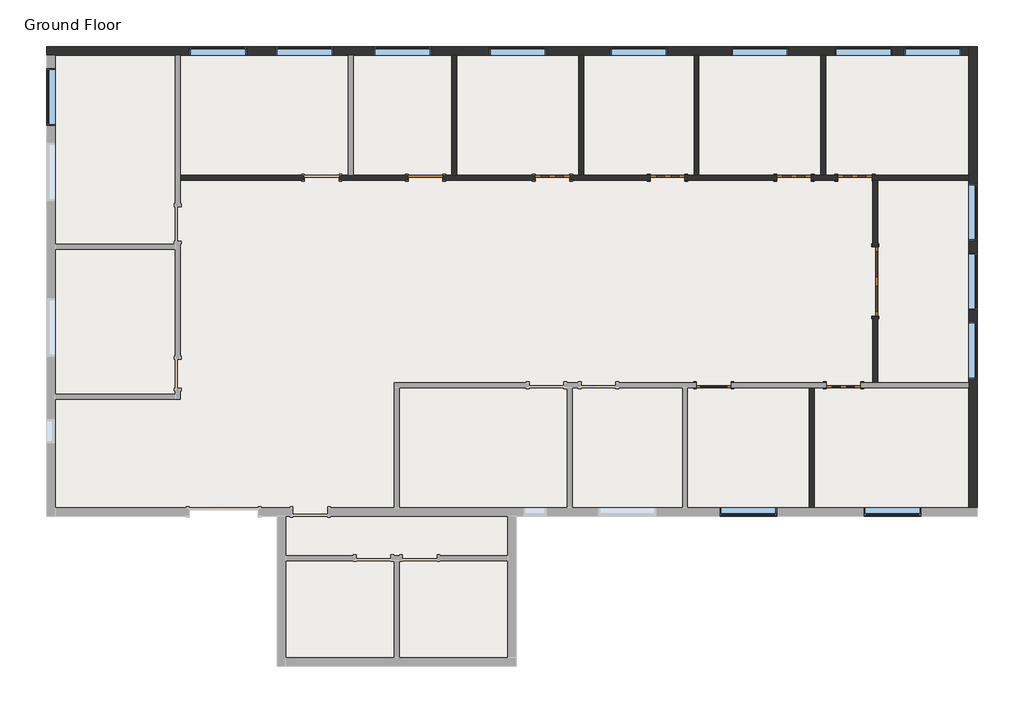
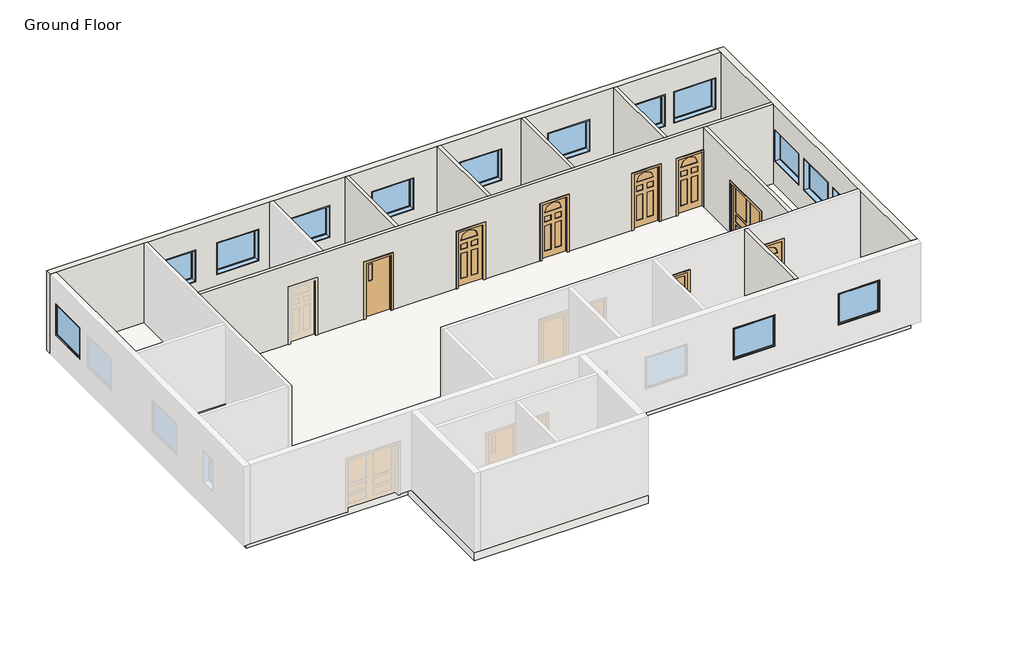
# One storey, part 2 of 2: 14 windows, 9 walls, 8 doors, 1 slab.
"""IFC4 building model written with IfcOpenShell, lengths in millimetres."""

import ifcopenshell
import ifcopenshell.guid

model = None  # the IFC model being written
_history = None  # IfcOwnerHistory: only IFC2X3 demands one
_inside = {}  # id of a spatial element -> (the spatial element, [elements in it])
_under = {}  # id of a project, library or spatial element -> (it, [spatial elements below it])
_declared = {}  # id of a project -> (the project, [libraries it declares])
_typed = {}  # id of a type object -> (the type object, [elements of that type])
_made_of = {}  # id of a material, layer set ... -> (it, [elements and type objects made of it])


def new_model(schema):
    """Start an empty IFC model of exactly this schema.

    Asked for "IFC4X3", IfcOpenShell would pick the latest addendum, in which some entities
    have other attributes; the version numbers below select the first issue.
    IFC2X3 requires an IfcOwnerHistory on every rooted entity: one is made here for all.
    """
    global model, _history
    if schema == "IFC4X3":
        model = ifcopenshell.file(schema_version=(4, 3, 0, 0))
    else:
        model = ifcopenshell.file(schema=schema)
    _inside.clear()
    _under.clear()
    _declared.clear()
    _typed.clear()
    _made_of.clear()
    _history = None
    if model.schema == "IFC2X3":
        org = make("IfcOrganization", Name="unknown")
        user = make(
            "IfcPersonAndOrganization",
            ThePerson=make("IfcPerson", FamilyName="unknown"),
            TheOrganization=org,
        )
        app = make(
            "IfcApplication",
            ApplicationDeveloper=org,
            Version="unknown",
            ApplicationFullName="unknown",
            ApplicationIdentifier="unknown",
        )
        _history = make(
            "IfcOwnerHistory",
            OwningUser=user,
            OwningApplication=app,
            ChangeAction="ADDED",
            CreationDate=0,
        )
    return model


def make(cls, **values):
    """One entity of the class cls with the attributes given. An attribute that is None is left unset."""
    return model.create_entity(
        cls, **{name: value for name, value in values.items() if value is not None}
    )


def rooted(cls, **values):
    """An entity with a GlobalId (a new one), such as an element, a storey or a relation."""
    return make(cls, GlobalId=ifcopenshell.guid.new(), OwnerHistory=_history, **values)


def si_unit(unit_type, name, prefix=None):
    """IfcSIUnit, for example si_unit("LENGTHUNIT", "METRE", prefix="MILLI")."""
    return make("IfcSIUnit", UnitType=unit_type, Prefix=prefix, Name=name)


def assignment(units):
    """IfcUnitAssignment: the units of a project."""
    return None if units is None else make("IfcUnitAssignment", Units=units)


def point(xyz):
    """IfcCartesianPoint."""
    return None if xyz is None else make("IfcCartesianPoint", Coordinates=xyz)


def direction(xyz):
    """IfcDirection."""
    return None if xyz is None else make("IfcDirection", DirectionRatios=xyz)


def frame(location, z_axis=None, x_axis=None):
    """IfcAxis2Placement3D, a coordinate frame: its origin and axes. An axis left out is left unset."""
    return make(
        "IfcAxis2Placement3D",
        Location=point(location),
        Axis=direction(z_axis),
        RefDirection=direction(x_axis),
    )


def frame_2d(location, x_axis=None):
    """IfcAxis2Placement2D, a coordinate frame in the plane: its origin and x axis."""
    return make(
        "IfcAxis2Placement2D", Location=point(location), RefDirection=direction(x_axis)
    )


def origin():
    """The frame at (0, 0, 0) with its axes left unset."""
    return frame((0.0, 0.0, 0.0))


def origin_with_axes():
    """The frame at (0, 0, 0) with the z axis (0, 0, 1) and the x axis (1, 0, 0) written out."""
    return frame((0.0, 0.0, 0.0), z_axis=(0.0, 0.0, 1.0), x_axis=(1.0, 0.0, 0.0))


def place(relative_to, where):
    """IfcLocalPlacement: puts the frame where relative to a parent placement (None: the world)."""
    return make(
        "IfcLocalPlacement", PlacementRelTo=relative_to, RelativePlacement=where
    )


def context(
    kind, dimensions, precision=None, world=None, true_north=None, identifier=None
):
    """IfcGeometricRepresentationContext, for example the 3D "Model" context."""
    return make(
        "IfcGeometricRepresentationContext",
        ContextIdentifier=identifier,
        ContextType=kind,
        CoordinateSpaceDimension=dimensions,
        Precision=precision,
        WorldCoordinateSystem=world,
        TrueNorth=true_north,
    )


def project(units=None, contexts=None):
    """IfcProject with its units and contexts."""
    return rooted(
        "IfcProject",
        Name="project",
        RepresentationContexts=contexts,
        UnitsInContext=assignment(units),
    )


def spatial(cls, under=None, at=None, **own):
    """A site, building, storey or space (cls), placed at a placement, below another one or the project."""
    s = rooted(cls, ObjectPlacement=at, **own)
    if under is not None:
        _under.setdefault(under.id(), (under, []))[1].append(s)
    return s


def polyline(points):
    """IfcPolyline through the points."""
    return make("IfcPolyline", Points=[point(p) for p in points])


def circle_curve(where, radius):
    """IfcCircle in the frame where."""
    return make("IfcCircle", Position=where, Radius=radius)


def trimmed(basis, trim1, trim2, sense, master):
    """IfcTrimmedCurve: the piece of a basis curve between two trims."""
    return make(
        "IfcTrimmedCurve",
        BasisCurve=basis,
        Trim1=trim1,
        Trim2=trim2,
        SenseAgreement=sense,
        MasterRepresentation=master,
    )


def segment(curve, same_sense, transition):
    """IfcCompositeCurveSegment."""
    return make(
        "IfcCompositeCurveSegment",
        Transition=transition,
        SameSense=same_sense,
        ParentCurve=curve,
    )


def composite_curve(segments, self_intersect=None):
    """IfcCompositeCurve: segments joined end to end."""
    return make("IfcCompositeCurve", Segments=segments, SelfIntersect=self_intersect)


def outline(outer, holes=None, kind="AREA"):
    """IfcArbitraryClosedProfileDef: a profile drawn as a closed curve; with holes, ...WithVoids."""
    if holes is None:
        return make("IfcArbitraryClosedProfileDef", ProfileType=kind, OuterCurve=outer)
    return make(
        "IfcArbitraryProfileDefWithVoids",
        ProfileType=kind,
        OuterCurve=outer,
        InnerCurves=holes,
    )


def extrude(swept, where, along, depth):
    """IfcExtrudedAreaSolid: the profile swept, set in the frame where, extruded along a direction by depth."""
    return make(
        "IfcExtrudedAreaSolid",
        SweptArea=swept,
        Position=where,
        ExtrudedDirection=direction(along),
        Depth=depth,
    )


def faces_of(points, faces, orient=None, outer=None):
    """IfcFace entities. A face is a list of loops; a loop is a list of indices into points, from 0.

    orient and outer hold one flag for each loop. By default every Orientation is true, the
    first loop of a face is its IfcFaceOuterBound and the others are IfcFaceBound.
    """
    made = []
    for i, loops in enumerate(faces):
        bounds = []
        for j, loop in enumerate(loops):
            is_outer = j == 0 if outer is None else outer[i][j]
            bounds.append(
                make(
                    "IfcFaceOuterBound" if is_outer else "IfcFaceBound",
                    Bound=make("IfcPolyLoop", Polygon=[points[k] for k in loop]),
                    Orientation=True if orient is None else orient[i][j],
                )
            )
        made.append(make("IfcFace", Bounds=bounds))
    return made


def faceted_brep(points, faces, orient=None, outer=None, voids=None):
    """IfcFacetedBrep: a solid bounded by flat faces; with voids (closed shells), ...WithVoids."""
    shared = [point(p) for p in points]
    hull = make("IfcClosedShell", CfsFaces=faces_of(shared, faces, orient, outer))
    if voids is None:
        return make("IfcFacetedBrep", Outer=hull)
    return make(
        "IfcFacetedBrepWithVoids",
        Outer=hull,
        Voids=[
            make(cls, CfsFaces=faces_of(shared, fs, o, b)) for cls, fs, o, b in voids
        ],
    )


def shape(context_of_items, identifier, shape_type, items):
    """IfcShapeRepresentation: the items that make up one representation, for example the "Body"."""
    return make(
        "IfcShapeRepresentation",
        ContextOfItems=context_of_items,
        RepresentationIdentifier=identifier,
        RepresentationType=shape_type,
        Items=items,
    )


def source(mapping_origin, context_of_items, identifier, shape_type, items):
    """IfcRepresentationMap: a shape defined once, which mapped items show again and again."""
    return make(
        "IfcRepresentationMap",
        MappingOrigin=mapping_origin,
        MappedRepresentation=shape(context_of_items, identifier, shape_type, items),
    )


def transform(
    local_origin,
    x_axis=None,
    y_axis=None,
    z_axis=None,
    scale=None,
    scale2=None,
    scale3=None,
    uniform=True,
):
    """IfcCartesianTransformationOperator3D, or its non-uniform kind. x_axis, y_axis, z_axis: its Axis1, 2, 3."""
    if uniform:
        return make(
            "IfcCartesianTransformationOperator3D",
            Axis1=direction(x_axis),
            Axis2=direction(y_axis),
            LocalOrigin=point(local_origin),
            Scale=scale,
            Axis3=direction(z_axis),
        )
    return make(
        "IfcCartesianTransformationOperator3DnonUniform",
        Axis1=direction(x_axis),
        Axis2=direction(y_axis),
        LocalOrigin=point(local_origin),
        Scale=scale,
        Axis3=direction(z_axis),
        Scale2=scale2,
        Scale3=scale3,
    )


def mapped(mapping_source, mapping_target):
    """IfcMappedItem: shows the shape of a source again, moved by a transform."""
    return make(
        "IfcMappedItem", MappingSource=mapping_source, MappingTarget=mapping_target
    )


def made_of(thing, what):
    """Note that an element or type object is made of a material, layer set ...; save() writes the relation."""
    if what is not None:
        _made_of.setdefault(what.id(), (what, []))[1].append(thing)
    return thing


def element(
    cls,
    number,
    at=None,
    inside=None,
    cuts=None,
    type_object=None,
    material=None,
    context=None,
    identifier="Body",
    shape_type=None,
    held_by="IfcProductDefinitionShape",
    body=None,
    shapes=None,
    **own,
):
    """One element of the class cls, such as IfcWall. Its Tag is "e" and its number.

    at: its placement. inside: the storey or other place that contains it. cuts: it is an
    opening in that element (IfcRelVoidsElement). A single representation is given by context,
    identifier, shape_type and body (its items); several are given by shapes. held_by: the class
    of the entity that holds the representations. save() writes the other relations.
    """
    e = rooted(cls, Tag="e%d" % number, ObjectPlacement=at, **own)
    if body is not None:
        shapes = [shape(context, identifier, shape_type, body)]
    if shapes is not None:
        e.Representation = make(held_by, Representations=shapes)
    if inside is not None:
        _inside.setdefault(inside.id(), (inside, []))[1].append(e)
    if cuts is not None:
        rooted(
            "IfcRelVoidsElement", RelatingBuildingElement=cuts, RelatedOpeningElement=e
        )
    if type_object is not None:
        _typed.setdefault(type_object.id(), (type_object, []))[1].append(e)
    return made_of(e, material)


def aggregate(whole, parts):
    """IfcRelAggregates: a whole, such as a stair, and the parts it consists of."""
    return rooted("IfcRelAggregates", RelatingObject=whole, RelatedObjects=parts)


def save(model, path):
    """Write the relations noted so far, then the file.

    IfcRelAggregates (storeys below a building ...), IfcRelContainedInSpatialStructure (elements
    in a storey), IfcRelDefinesByType, IfcRelAssociatesMaterial and IfcRelDeclares: one each for
    every whole, place, type object, material and project.
    """
    for whole, parts in _under.values():
        aggregate(whole, parts)
    for where, things in _inside.values():
        rooted(
            "IfcRelContainedInSpatialStructure",
            RelatedElements=things,
            RelatingStructure=where,
        )
    for kind, things in _typed.values():
        rooted("IfcRelDefinesByType", RelatedObjects=things, RelatingType=kind)
    for what, things in _made_of.values():
        rooted("IfcRelAssociatesMaterial", RelatedObjects=things, RelatingMaterial=what)
    for by, libraries in _declared.values():
        rooted("IfcRelDeclares", RelatingContext=by, RelatedDefinitions=libraries)
    model.write(path)


def door_c59f2623(model_context):
    return source(origin(), model_context, "Body", "SweptSolid", [
        extrude(outline(polyline([(2057.4, -990.6), (0.0, -990.6), (0.0, -914.4), (1981.2, -914.4), (1981.2, 914.4), (0.0, 914.4), (0.0, 990.6), (2057.4, 990.6), (2057.4, -990.6)])), frame((0.0, 63.5, 0.0), z_axis=(0.0, 1.0, 0.0), x_axis=(0.0, 0.0, 1.0)), (0.0, 0.0, 1.0), 25.4),
        extrude(outline(polyline([(127.0, 50.8), (787.4, 50.8), (787.4, 25.4), (127.0, 25.4), (127.0, 50.8)])), frame((0.0, 0.0, 914.4), z_axis=(0.0, 0.0, 1.0), x_axis=(1.0, 0.0, 0.0)), (0.0, 0.0, 1.0), 914.4),
        extrude(outline(polyline([(127.0, 50.8), (787.4, 50.8), (787.4, 25.4), (127.0, 25.4), (127.0, 50.8)])), frame((0.0, 0.0, 533.4), z_axis=(0.0, 0.0, 1.0), x_axis=(1.0, 0.0, 0.0)), (0.0, 0.0, 1.0), 279.4),
        extrude(outline(polyline([(127.0, 50.8), (787.4, 50.8), (787.4, 25.4), (127.0, 25.4), (127.0, 50.8)])), frame((0.0, 0.0, 152.4), z_axis=(0.0, 0.0, 1.0), x_axis=(1.0, 0.0, 0.0)), (0.0, 0.0, 1.0), 279.4),
        extrude(outline(polyline([(-787.4, 50.8), (-127.0, 50.8), (-127.0, 25.4), (-787.4, 25.4), (-787.4, 50.8)])), frame((0.0, 0.0, 914.4), z_axis=(0.0, 0.0, 1.0), x_axis=(1.0, 0.0, 0.0)), (0.0, 0.0, 1.0), 914.4),
        extrude(outline(polyline([(-787.4, 50.8), (-127.0, 50.8), (-127.0, 25.4), (-787.4, 25.4), (-787.4, 50.8)])), frame((0.0, 0.0, 533.4), z_axis=(0.0, 0.0, 1.0), x_axis=(1.0, 0.0, 0.0)), (0.0, 0.0, 1.0), 279.4),
        extrude(outline(polyline([(-787.4, 50.8), (-127.0, 50.8), (-127.0, 25.4), (-787.4, 25.4), (-787.4, 50.8)])), frame((0.0, 0.0, 152.4), z_axis=(0.0, 0.0, 1.0), x_axis=(1.0, 0.0, 0.0)), (0.0, 0.0, 1.0), 279.4),
        extrude(outline(polyline([(1981.2, -914.4), (0.0, -914.4), (0.0, 914.4), (1981.2, 914.4), (1981.2, -914.4)]), holes=[polyline([(1828.8, 127.0), (1828.8, 787.4), (914.4, 787.4), (914.4, 127.0), (1828.8, 127.0)]), polyline([(533.4, 787.4), (533.4, 127.0), (812.8, 127.0), (812.8, 787.4), (533.4, 787.4)]), polyline([(431.8, 787.4), (152.4, 787.4), (152.4, 127.0), (431.8, 127.0), (431.8, 787.4)]), polyline([(1828.8, -127.0), (914.4, -127.0), (914.4, -787.4), (1828.8, -787.4), (1828.8, -127.0)]), polyline([(812.8, -787.4), (812.8, -127.0), (533.4, -127.0), (533.4, -787.4), (812.8, -787.4)]), polyline([(152.4, -127.0), (152.4, -787.4), (431.8, -787.4), (431.8, -127.0), (152.4, -127.0)])]), frame((0.0, 12.7, 0.0), z_axis=(0.0, 1.0, 0.0), x_axis=(0.0, 0.0, 1.0)), (0.0, 0.0, 1.0), 50.8),
        extrude(outline(polyline([(1981.2, -914.4), (1981.2, 914.4), (0.0, 914.4), (0.0, 990.6), (2057.4, 990.6), (2057.4, -990.6), (0.0, -990.6), (0.0, -914.4), (1981.2, -914.4)])), frame((0.0, -88.9, 0.0), z_axis=(0.0, 1.0, 0.0), x_axis=(0.0, 0.0, 1.0)), (0.0, 0.0, 1.0), 25.4),
    ])


def door_2e3b4da2(model_context):
    return source(origin(), model_context, "Body", "SweptSolid", [
        extrude(outline(polyline([(0.0, -457.2), (0.0, 457.2), (2133.6, 457.2), (2133.6, -457.2), (0.0, -457.2)]), holes=[polyline([(254.0, -76.2), (254.0, -304.8), (1219.2, -304.8), (1219.2, -76.2), (254.0, -76.2)]), polyline([(254.0, 304.8), (254.0, 76.2), (1219.2, 76.2), (1219.2, 304.8), (254.0, 304.8)]), polyline([(1371.6, 76.2), (1574.8, 76.2), (1574.8, 304.8), (1371.6, 304.8), (1371.6, 76.2)]), polyline([(1371.6, -304.8), (1574.8, -304.8), (1574.8, -76.2), (1371.6, -76.2), (1371.6, -304.8)]), composite_curve([segment(polyline([(1727.2, 304.8), (1727.2, -304.8)]), True, "CONTINUOUS"), segment(trimmed(circle_curve(frame_2d((1727.2, 0.0)), 304.8), [point((1727.2, -304.8))], [point((1727.2, 304.8))], True, "CARTESIAN"), True, "CONTINUOUS")], self_intersect=False)]), frame((0.0, 12.7, 0.0), z_axis=(0.0, 1.0, 0.0), x_axis=(0.0, 0.0, 1.0)), (0.0, 0.0, 1.0), 50.8),
        extrude(outline(polyline([(0.0, 457.2), (0.0, 533.4), (2209.8, 533.4), (2209.8, -533.4), (0.0, -533.4), (0.0, -457.2), (2133.6, -457.2), (2133.6, 457.2), (0.0, 457.2)])), frame((0.0, -88.9, 0.0), z_axis=(0.0, 1.0, 0.0), x_axis=(0.0, 0.0, 1.0)), (0.0, 0.0, 1.0), 25.4),
        extrude(outline(polyline([(2209.8, -533.4), (0.0, -533.4), (0.0, -457.2), (2133.6, -457.2), (2133.6, 457.2), (0.0, 457.2), (0.0, 533.4), (2209.8, 533.4), (2209.8, -533.4)])), frame((0.0, 63.5, 0.0), z_axis=(0.0, 1.0, 0.0), x_axis=(0.0, 0.0, 1.0)), (0.0, 0.0, 1.0), 25.4),
        extrude(outline(composite_curve([segment(polyline([(1727.2, -304.8), (1727.2, 304.8)]), True, "CONTINUOUS"), segment(trimmed(circle_curve(frame_2d((1727.2, 0.0)), 304.8), [point((1727.2, 304.8))], [point((1727.2, -304.8))], False, "CARTESIAN"), True, "CONTINUOUS")], self_intersect=False)), frame((0.0, 29.6333333, 0.0), z_axis=(0.0, 1.0, 0.0), x_axis=(0.0, 0.0, 1.0)), (0.0, 0.0, 1.0), 16.9333333),
        extrude(outline(polyline([(-304.8, 46.5666667), (-76.2, 46.5666667), (-76.2, 29.6333333), (-304.8, 29.6333333), (-304.8, 46.5666667)])), frame((0.0, 0.0, 254.0), z_axis=(0.0, 0.0, 1.0), x_axis=(1.0, 0.0, 0.0)), (0.0, 0.0, 1.0), 965.2),
        extrude(outline(polyline([(76.2, 46.5666667), (304.8, 46.5666667), (304.8, 29.6333333), (76.2, 29.6333333), (76.2, 46.5666667)])), frame((0.0, 0.0, 254.0), z_axis=(0.0, 0.0, 1.0), x_axis=(1.0, 0.0, 0.0)), (0.0, 0.0, 1.0), 965.2),
        extrude(outline(polyline([(76.2, 46.5666667), (304.8, 46.5666667), (304.8, 29.6333333), (76.2, 29.6333333), (76.2, 46.5666667)])), frame((0.0, 0.0, 1371.6), z_axis=(0.0, 0.0, 1.0), x_axis=(1.0, 0.0, 0.0)), (0.0, 0.0, 1.0), 203.2),
        extrude(outline(polyline([(-304.8, 46.5666667), (-76.2, 46.5666667), (-76.2, 29.6333333), (-304.8, 29.6333333), (-304.8, 46.5666667)])), frame((0.0, 0.0, 1371.6), z_axis=(0.0, 0.0, 1.0), x_axis=(1.0, 0.0, 0.0)), (0.0, 0.0, 1.0), 203.2),
    ])


def door_829da954(model_context):
    return source(origin(), model_context, "Body", "SweptSolid", [
        extrude(outline(polyline([(0.0, -457.2), (0.0, 457.2), (2133.6, 457.2), (2133.6, -457.2), (0.0, -457.2)]), holes=[polyline([(254.0, -76.2), (254.0, -304.8), (1219.2, -304.8), (1219.2, -76.2), (254.0, -76.2)]), polyline([(254.0, 304.8), (254.0, 76.2), (1219.2, 76.2), (1219.2, 304.8), (254.0, 304.8)]), polyline([(1371.6, 76.2), (1574.8, 76.2), (1574.8, 304.8), (1371.6, 304.8), (1371.6, 76.2)]), polyline([(1371.6, -304.8), (1574.8, -304.8), (1574.8, -76.2), (1371.6, -76.2), (1371.6, -304.8)]), composite_curve([segment(polyline([(1727.2, 304.8), (1727.2, -304.8)]), True, "CONTINUOUS"), segment(trimmed(circle_curve(frame_2d((1727.2, 0.0)), 304.8), [point((1727.2, -304.8))], [point((1727.2, 304.8))], True, "CARTESIAN"), True, "CONTINUOUS")], self_intersect=False)]), frame((0.0, -63.5, 0.0), z_axis=(0.0, 1.0, 0.0), x_axis=(0.0, 0.0, 1.0)), (0.0, 0.0, 1.0), 50.8),
        extrude(outline(polyline([(0.0, 457.2), (0.0, 533.4), (2209.8, 533.4), (2209.8, -533.4), (0.0, -533.4), (0.0, -457.2), (2133.6, -457.2), (2133.6, 457.2), (0.0, 457.2)])), frame((0.0, 63.5, 0.0), z_axis=(0.0, 1.0, 0.0), x_axis=(0.0, 0.0, 1.0)), (0.0, 0.0, 1.0), 25.4),
        extrude(outline(polyline([(2209.8, -533.4), (0.0, -533.4), (0.0, -457.2), (2133.6, -457.2), (2133.6, 457.2), (0.0, 457.2), (0.0, 533.4), (2209.8, 533.4), (2209.8, -533.4)])), frame((0.0, -88.9, 0.0), z_axis=(0.0, 1.0, 0.0), x_axis=(0.0, 0.0, 1.0)), (0.0, 0.0, 1.0), 25.4),
        extrude(outline(composite_curve([segment(polyline([(1727.2, -304.8), (1727.2, 304.8)]), True, "CONTINUOUS"), segment(trimmed(circle_curve(frame_2d((1727.2, 0.0)), 304.8), [point((1727.2, 304.8))], [point((1727.2, -304.8))], False, "CARTESIAN"), True, "CONTINUOUS")], self_intersect=False)), frame((0.0, -46.5666667, 0.0), z_axis=(0.0, 1.0, 0.0), x_axis=(0.0, 0.0, 1.0)), (0.0, 0.0, 1.0), 16.9333333),
        extrude(outline(polyline([(-304.8, -46.5666667), (-304.8, -29.6333333), (-76.2, -29.6333333), (-76.2, -46.5666667), (-304.8, -46.5666667)])), frame((0.0, 0.0, 254.0), z_axis=(0.0, 0.0, 1.0), x_axis=(1.0, 0.0, 0.0)), (0.0, 0.0, 1.0), 965.2),
        extrude(outline(polyline([(76.2, -46.5666667), (76.2, -29.6333333), (304.8, -29.6333333), (304.8, -46.5666667), (76.2, -46.5666667)])), frame((0.0, 0.0, 254.0), z_axis=(0.0, 0.0, 1.0), x_axis=(1.0, 0.0, 0.0)), (0.0, 0.0, 1.0), 965.2),
        extrude(outline(polyline([(76.2, -46.5666667), (76.2, -29.6333333), (304.8, -29.6333333), (304.8, -46.5666667), (76.2, -46.5666667)])), frame((0.0, 0.0, 1371.6), z_axis=(0.0, 0.0, 1.0), x_axis=(1.0, 0.0, 0.0)), (0.0, 0.0, 1.0), 203.2),
        extrude(outline(polyline([(-304.8, -46.5666667), (-304.8, -29.6333333), (-76.2, -29.6333333), (-76.2, -46.5666667), (-304.8, -46.5666667)])), frame((0.0, 0.0, 1371.6), z_axis=(0.0, 0.0, 1.0), x_axis=(1.0, 0.0, 0.0)), (0.0, 0.0, 1.0), 203.2),
    ])


def door_e12cc5d4(model_context):
    return source(origin(), model_context, "Body", "SweptSolid", [
        extrude(outline(polyline([(2209.8, -533.4), (0.0, -533.4), (0.0, -457.2), (2133.6, -457.2), (2133.6, 457.2), (0.0, 457.2), (0.0, 533.4), (2209.8, 533.4), (2209.8, -533.4)])), frame((0.0, 63.5, 0.0), z_axis=(0.0, 1.0, 0.0), x_axis=(0.0, 0.0, 1.0)), (0.0, 0.0, 1.0), 25.4),
        extrude(outline(polyline([(2133.6, 457.2), (0.0, 457.2), (0.0, 533.4), (2209.8, 533.4), (2209.8, -533.4), (0.0, -533.4), (0.0, -457.2), (2133.6, -457.2), (2133.6, 457.2)])), frame((0.0, -88.9, 0.0), z_axis=(0.0, 1.0, 0.0), x_axis=(0.0, 0.0, 1.0)), (0.0, 0.0, 1.0), 25.4),
        extrude(outline(polyline([(-177.8, 25.4), (-304.8, 25.4), (-304.8, 31.75), (-177.8, 31.75), (-177.8, 25.4)])), frame((0.0, 0.0, 1346.2), z_axis=(0.0, 0.0, 1.0), x_axis=(1.0, 0.0, 0.0)), (0.0, 0.0, 1.0), 635.0),
        extrude(outline(polyline([(-177.8, 44.45), (-304.8, 44.45), (-304.8, 50.8), (-177.8, 50.8), (-177.8, 44.45)])), frame((0.0, 0.0, 1346.2), z_axis=(0.0, 0.0, 1.0), x_axis=(1.0, 0.0, 0.0)), (0.0, 0.0, 1.0), 635.0),
        extrude(outline(polyline([(2133.6, -457.2), (0.0, -457.2), (0.0, 457.2), (2133.6, 457.2), (2133.6, -457.2)]), holes=[polyline([(1981.2, -304.8), (1981.2, -177.8), (1346.2, -177.8), (1346.2, -304.8), (1981.2, -304.8)])]), frame((0.0, 12.7, 0.0), z_axis=(0.0, 1.0, 0.0), x_axis=(0.0, 0.0, 1.0)), (0.0, 0.0, 1.0), 50.8),
    ])


def door_009a01e8(model_context):
    return source(origin(), model_context, "Body", "SweptSolid", [
        extrude(outline(polyline([(2133.6, 457.2), (0.0, 457.2), (0.0, 533.4), (2209.8, 533.4), (2209.8, -533.4), (0.0, -533.4), (0.0, -457.2), (2133.6, -457.2), (2133.6, 457.2)])), frame((0.0, -88.9, 0.0), z_axis=(0.0, 1.0, 0.0), x_axis=(0.0, 0.0, 1.0)), (0.0, 0.0, 1.0), 25.4),
        extrude(outline(polyline([(2133.6, 457.2), (0.0, 457.2), (0.0, 533.4), (2209.8, 533.4), (2209.8, -533.4), (0.0, -533.4), (0.0, -457.2), (2133.6, -457.2), (2133.6, 457.2)])), frame((0.0, 63.5, 0.0), z_axis=(0.0, 1.0, 0.0), x_axis=(0.0, 0.0, 1.0)), (0.0, 0.0, 1.0), 25.4),
        extrude(outline(polyline([(355.6, 34.925), (-355.6, 34.925), (-355.6, 41.275), (355.6, 41.275), (355.6, 34.925)])), frame((0.0, 0.0, 101.6), z_axis=(0.0, 0.0, 1.0), x_axis=(1.0, 0.0, 0.0)), (0.0, 0.0, 1.0), 1930.4),
        extrude(outline(polyline([(2133.6, 457.2), (2133.6, -457.2), (0.0, -457.2), (0.0, 457.2), (2133.6, 457.2)]), holes=[polyline([(2032.0, -355.6), (2032.0, 355.6), (101.6, 355.6), (101.6, -355.6), (2032.0, -355.6)])]), frame((0.0, 12.7, 0.0), z_axis=(0.0, 1.0, 0.0), x_axis=(0.0, 0.0, 1.0)), (0.0, 0.0, 1.0), 50.8),
    ])


def fixed_60_x_48_145d3b12(model_context):
    return source(origin(), model_context, "Body", "SweptSolid", [
        extrude(outline(polyline([(660.4, 66.675), (-736.6, 66.675), (-736.6, 79.375), (660.4, 79.375), (660.4, 66.675)])), frame((0.0, 0.0, 977.9), z_axis=(0.0, 0.0, 1.0), x_axis=(1.0, 0.0, 0.0)), (0.0, 0.0, 1.0), 1092.2),
        extrude(outline(polyline([(2114.55, -781.05), (933.45, -781.05), (933.45, 704.85), (2114.55, 704.85), (2114.55, -781.05)]), holes=[polyline([(2070.1, -736.6), (2070.1, 660.4), (977.9, 660.4), (977.9, -736.6), (2070.1, -736.6)])]), frame((0.0, 50.8, 0.0), z_axis=(0.0, 1.0, 0.0), x_axis=(0.0, 0.0, 1.0)), (0.0, 0.0, 1.0), 44.45),
        extrude(outline(polyline([(2133.6, -800.1), (914.4, -800.1), (914.4, 723.9), (2133.6, 723.9), (2133.6, -800.1)]), holes=[polyline([(2101.85, -768.35), (2101.85, 692.15), (946.15, 692.15), (946.15, -768.35), (2101.85, -768.35)])]), frame((0.0, -114.3, 0.0), z_axis=(0.0, 1.0, 0.0), x_axis=(0.0, 0.0, 1.0)), (0.0, 0.0, 1.0), 165.1),
        extrude(outline(polyline([(2133.6, 723.9), (2133.6, -800.1), (914.4, -800.1), (914.4, 723.9), (2133.6, 723.9)]), holes=[polyline([(2114.55, 704.85), (933.45, 704.85), (933.45, -781.05), (2114.55, -781.05), (2114.55, 704.85)])]), frame((0.0, 50.8, 0.0), z_axis=(0.0, 1.0, 0.0), x_axis=(0.0, 0.0, 1.0)), (0.0, 0.0, 1.0), 63.5),
    ])


model = new_model("IFC4")

# Units and contexts
model_context = context("Model", 3, world=origin())
ifc_project = project(units=[si_unit("LENGTHUNIT", "METRE", prefix="MILLI")], contexts=[model_context])

# Site, building, storey
site = spatial("IfcSite", under=ifc_project)
building = spatial("IfcBuilding", under=site)
storey = spatial("IfcBuildingStorey", under=building, Name="Ground Floor", Elevation=0.0)

# Doors
placement = place(None, origin())
door_shape = door_c59f2623(model_context)
element("IfcDoor", 1, ObjectType="Double-Panel 1 : 72\" x 78\"", at=placement, inside=storey, context=model_context, shape_type="MappedRepresentation", body=[
    mapped(door_shape, transform((3991.8606049, -4651.2833183, 0.0), x_axis=(0.0, -1.0, 0.0), y_axis=(1.0, 0.0, 0.0), z_axis=(0.0, 0.0, 1.0))),
])
door_2_shape = door_2e3b4da2(model_context)
element("IfcDoor", 2, ObjectType="Single-Decorative 2 : 36\" x 84\"", at=placement, inside=storey, context=model_context, shape_type="MappedRepresentation", body=[
    mapped(door_2_shape, transform((-4542.5393951, -1908.0833183, 0.0), x_axis=(1.0, 0.0, 0.0), y_axis=(0.0, 1.0, 0.0), z_axis=(0.0, 0.0, 1.0))),
])
element("IfcDoor", 3, ObjectType="Single-Decorative 2 : 36\" x 84\"", at=placement, inside=storey, context=model_context, shape_type="MappedRepresentation", body=[
    mapped(door_2_shape, transform((-1494.5393951, -1908.0833183, 0.0), x_axis=(1.0, 0.0, 0.0), y_axis=(0.0, 1.0, 0.0), z_axis=(0.0, 0.0, 1.0))),
])
element("IfcDoor", 4, ObjectType="Single-Decorative 2 : 36\" x 84\"", at=placement, inside=storey, context=model_context, shape_type="MappedRepresentation", body=[
    mapped(door_2_shape, transform((1845.5606049, -1908.0833183, 0.0), x_axis=(1.0, 0.0, 0.0), y_axis=(0.0, 1.0, 0.0), z_axis=(0.0, 0.0, 1.0))),
])
element("IfcDoor", 5, ObjectType="Single-Decorative 2 : 36\" x 84\"", at=placement, inside=storey, context=model_context, shape_type="MappedRepresentation", body=[
    mapped(door_2_shape, transform((3153.6606049, -7394.4833183, 0.0), x_axis=(-1.0, 0.0, 0.0), y_axis=(0.0, -1.0, 0.0), z_axis=(0.0, 0.0, 1.0))),
])
door_3_shape = door_829da954(model_context)
element("IfcDoor", 6, ObjectType="Single-Decorative 2 : 36\" x 84\"", at=placement, inside=storey, context=model_context, shape_type="MappedRepresentation", body=[
    mapped(door_3_shape, transform((3458.4606049, -1908.0833183, 0.0), x_axis=(-1.0, 0.0, 0.0), y_axis=(0.0, -1.0, 0.0), z_axis=(0.0, 0.0, 1.0))),
])
door_4_shape = door_e12cc5d4(model_context)
element("IfcDoor", 7, ObjectType="Single-Flush Vision : 36\" x 84\"", at=placement, inside=storey, context=model_context, shape_type="MappedRepresentation", body=[
    mapped(door_4_shape, transform((-7895.3393951, -1908.0833183, 0.0), x_axis=(1.0, 0.0, 0.0), y_axis=(0.0, 1.0, 0.0), z_axis=(0.0, 0.0, 1.0))),
])
door_5_shape = door_009a01e8(model_context)
element("IfcDoor", 8, ObjectType="Single-Glass 1 : 36\" x 84\"", at=placement, inside=storey, context=model_context, shape_type="MappedRepresentation", body=[
    mapped(door_5_shape, transform((-275.3393951, -7394.4833183, 0.0), x_axis=(-1.0, 0.0, 0.0), y_axis=(0.0, -1.0, 0.0), z_axis=(0.0, 0.0, 1.0))),
])

# Slab
element("IfcSlab", 9, ObjectType="Generic - 12\"", at=placement, inside=storey, context=model_context, shape_type="SweptSolid", body=[
    extrude(outline(polyline([(6468.3606049, 1330.4166817), (6468.3606049, -10632.9833183), (-5495.0393951, -10632.9833183), (-5495.0393951, -14823.9833183), (-11819.6393951, -14823.9833183), (-11819.6393951, -10632.9833183), (-17687.0393951, -10632.9833183), (-17687.0393951, 1330.4166817), (6468.3606049, 1330.4166817)])), frame((0.0, 0.0, -304.8), z_axis=(0.0, 0.0, 1.0), x_axis=(1.0, 0.0, 0.0)), (0.0, 0.0, 1.0), 304.8),
])

# Walls
element("IfcWall", 10, ObjectType="Generic - 5\"", at=placement, inside=storey, context=model_context, shape_type="Brep", body=[
    faceted_brep([(-7438.1393951, -1971.5833183, 2133.6), (-7438.1393951, -1971.5833183, 0.0), (-4999.7393951, -1971.5833183, 0.0), (-4999.7393951, -1971.5833183, 2133.6), (-4085.3393951, -1971.5833183, 2133.6), (-4085.3393951, -1971.5833183, 0.0), (-1951.7393951, -1971.5833183, 0.0), (-1951.7393951, -1971.5833183, 2133.6), (-1037.3393951, -1971.5833183, 2133.6), (-1037.3393951, -1971.5833183, 0.0), (1388.3606049, -1971.5833183, 0.0), (1388.3606049, -1971.5833183, 2133.6), (2302.7606049, -1971.5833183, 2133.6), (2302.7606049, -1971.5833183, 0.0), (3001.2606049, -1971.5833183, 0.0), (3001.2606049, -1971.5833183, 2133.6), (3915.6606049, -1971.5833183, 2133.6), (3915.6606049, -1971.5833183, 0.0), (3928.3606049, -1971.5833183, 0.0), (4055.3606049, -1971.5833183, 0.0), (6468.3606049, -1971.5833183, 0.0), (6468.3606049, -1971.5833183, 3048.0), (4055.3606049, -1971.5833183, 3048.0), (3928.3606049, -1971.5833183, 3048.0), (-14385.0393951, -1971.5833183, 3048.0), (-14385.0393951, -1971.5833183, 0.0), (-11095.7393951, -1971.5833183, 0.0), (-11095.7393951, -1971.5833183, 2133.6), (-10181.3393951, -1971.5833183, 2133.6), (-10181.3393951, -1971.5833183, 0.0), (-8352.5393951, -1971.5833183, 0.0), (-8352.5393951, -1971.5833183, 2133.6), (-4999.7393951, -1844.5833183, 0.0), (-7069.8393951, -1844.5833183, 0.0), (-7196.8393951, -1844.5833183, 0.0), (-7438.1393951, -1844.5833183, 0.0), (-7438.1393951, -1844.5833183, 2133.6), (-8352.5393951, -1844.5833183, 2133.6), (-8352.5393951, -1844.5833183, 0.0), (-9813.0393951, -1844.5833183, 0.0), (-9940.0393951, -1844.5833183, 0.0), (-10181.3393951, -1844.5833183, 0.0), (-10181.3393951, -1844.5833183, 2133.6), (-11095.7393951, -1844.5833183, 2133.6), (-11095.7393951, -1844.5833183, 0.0), (-14385.0393951, -1844.5833183, 0.0), (-14385.0393951, -1844.5833183, 3048.0), (-9940.0393951, -1844.5833183, 3048.0), (-9813.0393951, -1844.5833183, 3048.0), (-7196.8393951, -1844.5833183, 3048.0), (-7069.8393951, -1844.5833183, 3048.0), (-3844.0393951, -1844.5833183, 3048.0), (-3717.0393951, -1844.5833183, 3048.0), (-796.0393951, -1844.5833183, 3048.0), (-669.0393951, -1844.5833183, 3048.0), (2556.7606049, -1844.5833183, 3048.0), (2683.7606049, -1844.5833183, 3048.0), (6468.3606049, -1844.5833183, 3048.0), (6468.3606049, -1844.5833183, 0.0), (3915.6606049, -1844.5833183, 0.0), (3915.6606049, -1844.5833183, 2133.6), (3001.2606049, -1844.5833183, 2133.6), (3001.2606049, -1844.5833183, 0.0), (2683.7606049, -1844.5833183, 0.0), (2556.7606049, -1844.5833183, 0.0), (2302.7606049, -1844.5833183, 0.0), (2302.7606049, -1844.5833183, 2133.6), (1388.3606049, -1844.5833183, 2133.6), (1388.3606049, -1844.5833183, 0.0), (-669.0393951, -1844.5833183, 0.0), (-796.0393951, -1844.5833183, 0.0), (-1037.3393951, -1844.5833183, 0.0), (-1037.3393951, -1844.5833183, 2133.6), (-1951.7393951, -1844.5833183, 2133.6), (-1951.7393951, -1844.5833183, 0.0), (-3717.0393951, -1844.5833183, 0.0), (-3844.0393951, -1844.5833183, 0.0), (-4085.3393951, -1844.5833183, 0.0), (-4085.3393951, -1844.5833183, 2133.6), (-4999.7393951, -1844.5833183, 2133.6)], [[[0, 1, 2, 3, 4, 5, 6, 7, 8, 9, 10, 11, 12, 13, 14, 15, 16, 17, 18, 19, 20, 21, 22, 23, 24, 25, 26, 27, 28, 29, 30, 31]], [[32, 33, 34, 35, 36, 37, 38, 39, 40, 41, 42, 43, 44, 45, 46, 47, 48, 49, 50, 51, 52, 53, 54, 55, 56, 57, 58, 59, 60, 61, 62, 63, 64, 65, 66, 67, 68, 69, 70, 71, 72, 73, 74, 75, 76, 77, 78, 79]], [[26, 25, 45, 44]], [[6, 5, 77, 76, 75, 74]], [[10, 9, 71, 70, 69, 68]], [[59, 58, 20, 19, 18, 17]], [[65, 64, 63, 62, 14, 13]], [[30, 29, 41, 40, 39, 38]], [[2, 1, 35, 34, 33, 32]], [[24, 23, 22, 21, 57, 56, 55, 54, 53, 52, 51, 50, 49, 48, 47, 46]], [[21, 20, 58, 57]], [[25, 24, 46, 45]], [[42, 41, 29, 28]], [[43, 42, 28, 27]], [[44, 43, 27, 26]], [[78, 77, 5, 4]], [[79, 78, 4, 3]], [[32, 79, 3, 2]], [[72, 71, 9, 8]], [[73, 72, 8, 7]], [[74, 73, 7, 6]], [[66, 65, 13, 12]], [[67, 66, 12, 11]], [[68, 67, 11, 10]], [[15, 14, 62, 61]], [[16, 15, 61, 60]], [[17, 16, 60, 59]], [[36, 35, 1, 0]], [[37, 36, 0, 31]], [[38, 37, 31, 30]]]),
])
element("IfcWall", 11, ObjectType="Generic - 5\"", at=placement, inside=storey, context=model_context, shape_type="SweptSolid", body=[
    extrude(outline(polyline([(-7196.8393951, -1844.5833183), (-7196.8393951, 1330.4166817), (-7069.8393951, 1330.4166817), (-7069.8393951, -1844.5833183), (-7196.8393951, -1844.5833183)])), origin_with_axes(), (0.0, 0.0, 1.0), 3048.0),
])
element("IfcWall", 12, ObjectType="Generic - 5\"", at=placement, inside=storey, context=model_context, shape_type="SweptSolid", body=[
    extrude(outline(polyline([(-3844.0393951, -1844.5833183), (-3844.0393951, 1330.4166817), (-3717.0393951, 1330.4166817), (-3717.0393951, -1844.5833183), (-3844.0393951, -1844.5833183)])), origin_with_axes(), (0.0, 0.0, 1.0), 3048.0),
])
element("IfcWall", 13, ObjectType="Generic - 5\"", at=placement, inside=storey, context=model_context, shape_type="SweptSolid", body=[
    extrude(outline(polyline([(-796.0393951, -1844.5833183), (-796.0393951, 1330.4166817), (-669.0393951, 1330.4166817), (-669.0393951, -1844.5833183), (-796.0393951, -1844.5833183)])), origin_with_axes(), (0.0, 0.0, 1.0), 3048.0),
])
element("IfcWall", 14, ObjectType="Generic - 5\"", at=placement, inside=storey, context=model_context, shape_type="SweptSolid", body=[
    extrude(outline(polyline([(2556.7606049, -1844.5833183), (2556.7606049, 1330.4166817), (2683.7606049, 1330.4166817), (2683.7606049, -1844.5833183), (2556.7606049, -1844.5833183)])), origin_with_axes(), (0.0, 0.0, 1.0), 3048.0),
])
element("IfcWall", 15, ObjectType="Generic - 5\"", at=placement, inside=storey, context=model_context, shape_type="SweptSolid", body=[
    extrude(outline(polyline([(-7330.9833183, 3048.0), (-1971.5833183, 3048.0), (-1971.5833183, 0.0), (-3736.8833183, 0.0), (-3736.8833183, 1981.2), (-5565.6833183, 1981.2), (-5565.6833183, 0.0), (-7330.9833183, 0.0), (-7330.9833183, 3048.0)])), frame((3928.3606049, 0.0, 0.0), z_axis=(1.0, 0.0, 0.0), x_axis=(0.0, 1.0, 0.0)), (0.0, 0.0, 1.0), 127.0),
])
element("IfcWall", 16, ObjectType="Generic - 5\"", at=placement, inside=storey, context=model_context, shape_type="SweptSolid", body=[
    extrude(outline(polyline([(2378.9606049, -7457.9833183), (2378.9606049, -10632.9833183), (2251.9606049, -10632.9833183), (2251.9606049, -7457.9833183), (2378.9606049, -7457.9833183)])), origin_with_axes(), (0.0, 0.0, 1.0), 3048.0),
])
element("IfcWall", 17, ObjectType="Generic- 9\"", at=placement, inside=storey, context=model_context, shape_type="Brep", body=[
    faceted_brep([(-17915.6393951, 1330.4166817, 0.0), (-17687.0393951, 1330.4166817, 0.0), (-14512.0393951, 1330.4166817, 0.0), (-14385.0393951, 1330.4166817, 0.0), (-9940.0393951, 1330.4166817, 0.0), (-9813.0393951, 1330.4166817, 0.0), (-7196.8393951, 1330.4166817, 0.0), (-7069.8393951, 1330.4166817, 0.0), (-3844.0393951, 1330.4166817, 0.0), (-3717.0393951, 1330.4166817, 0.0), (-796.0393951, 1330.4166817, 0.0), (-669.0393951, 1330.4166817, 0.0), (2556.7606049, 1330.4166817, 0.0), (2683.7606049, 1330.4166817, 0.0), (6468.3606049, 1330.4166817, 0.0), (6468.3606049, 1330.4166817, 3048.0), (2683.7606049, 1330.4166817, 3048.0), (2556.7606049, 1330.4166817, 3048.0), (-669.0393951, 1330.4166817, 3048.0), (-796.0393951, 1330.4166817, 3048.0), (-3717.0393951, 1330.4166817, 3048.0), (-3844.0393951, 1330.4166817, 3048.0), (-7069.8393951, 1330.4166817, 3048.0), (-7196.8393951, 1330.4166817, 3048.0), (-9813.0393951, 1330.4166817, 3048.0), (-9940.0393951, 1330.4166817, 3048.0), (-14385.0393951, 1330.4166817, 3048.0), (-14512.0393951, 1330.4166817, 3048.0), (-17687.0393951, 1330.4166817, 3048.0), (-17915.6393951, 1330.4166817, 3048.0), (-12619.7393951, 1330.4166817, 2133.6), (-12619.7393951, 1330.4166817, 914.4), (-14143.7393951, 1330.4166817, 914.4), (-14143.7393951, 1330.4166817, 2133.6), (-10333.7393951, 1330.4166817, 2133.6), (-10333.7393951, 1330.4166817, 914.4), (-11857.7393951, 1330.4166817, 914.4), (-11857.7393951, 1330.4166817, 2133.6), (-7742.9393951, 1330.4166817, 2133.6), (-7742.9393951, 1330.4166817, 914.4), (-9266.9393951, 1330.4166817, 914.4), (-9266.9393951, 1330.4166817, 2133.6), (-4694.9393951, 1330.4166817, 2133.6), (-4694.9393951, 1330.4166817, 914.4), (-6218.9393951, 1330.4166817, 914.4), (-6218.9393951, 1330.4166817, 2133.6), (-1494.5393951, 1330.4166817, 2133.6), (-1494.5393951, 1330.4166817, 914.4), (-3018.5393951, 1330.4166817, 914.4), (-3018.5393951, 1330.4166817, 2133.6), (1705.8606049, 1330.4166817, 2133.6), (1705.8606049, 1330.4166817, 914.4), (181.8606049, 1330.4166817, 914.4), (181.8606049, 1330.4166817, 2133.6), (4449.0606049, 1330.4166817, 2133.6), (4449.0606049, 1330.4166817, 914.4), (2925.0606049, 1330.4166817, 914.4), (2925.0606049, 1330.4166817, 2133.6), (6277.8606049, 1330.4166817, 2133.6), (6277.8606049, 1330.4166817, 914.4), (4753.8606049, 1330.4166817, 914.4), (4753.8606049, 1330.4166817, 2133.6), (-17915.6393951, 1559.0166817, 0.0), (-17915.6393951, 1559.0166817, 3048.0), (6468.3606049, 1559.0166817, 3048.0), (6468.3606049, 1559.0166817, 0.0), (-12619.7393951, 1559.0166817, 2133.6), (-14143.7393951, 1559.0166817, 2133.6), (-14143.7393951, 1559.0166817, 914.4), (-12619.7393951, 1559.0166817, 914.4), (-10333.7393951, 1559.0166817, 2133.6), (-11857.7393951, 1559.0166817, 2133.6), (-11857.7393951, 1559.0166817, 914.4), (-10333.7393951, 1559.0166817, 914.4), (-7742.9393951, 1559.0166817, 2133.6), (-9266.9393951, 1559.0166817, 2133.6), (-9266.9393951, 1559.0166817, 914.4), (-7742.9393951, 1559.0166817, 914.4), (-4694.9393951, 1559.0166817, 2133.6), (-6218.9393951, 1559.0166817, 2133.6), (-6218.9393951, 1559.0166817, 914.4), (-4694.9393951, 1559.0166817, 914.4), (-1494.5393951, 1559.0166817, 2133.6), (-3018.5393951, 1559.0166817, 2133.6), (-3018.5393951, 1559.0166817, 914.4), (-1494.5393951, 1559.0166817, 914.4), (1705.8606049, 1559.0166817, 2133.6), (181.8606049, 1559.0166817, 2133.6), (181.8606049, 1559.0166817, 914.4), (1705.8606049, 1559.0166817, 914.4), (4449.0606049, 1559.0166817, 2133.6), (2925.0606049, 1559.0166817, 2133.6), (2925.0606049, 1559.0166817, 914.4), (4449.0606049, 1559.0166817, 914.4), (6277.8606049, 1559.0166817, 2133.6), (4753.8606049, 1559.0166817, 2133.6), (4753.8606049, 1559.0166817, 914.4), (6277.8606049, 1559.0166817, 914.4)], [[[0, 1, 2, 3, 4, 5, 6, 7, 8, 9, 10, 11, 12, 13, 14, 15, 16, 17, 18, 19, 20, 21, 22, 23, 24, 25, 26, 27, 28, 29], [30, 31, 32, 33], [34, 35, 36, 37], [38, 39, 40, 41], [42, 43, 44, 45], [46, 47, 48, 49], [50, 51, 52, 53], [54, 55, 56, 57], [58, 59, 60, 61]], [[62, 63, 64, 65], [66, 67, 68, 69], [70, 71, 72, 73], [74, 75, 76, 77], [78, 79, 80, 81], [82, 83, 84, 85], [86, 87, 88, 89], [90, 91, 92, 93], [94, 95, 96, 97]], [[14, 13, 12, 11, 10, 9, 8, 7, 6, 5, 4, 3, 2, 1, 0, 62, 65]], [[29, 28, 27, 26, 25, 24, 23, 22, 21, 20, 19, 18, 17, 16, 15, 64, 63]], [[0, 29, 63, 62]], [[15, 14, 65, 64]], [[31, 30, 66, 69]], [[32, 31, 69, 68]], [[33, 32, 68, 67]], [[30, 33, 67, 66]], [[35, 34, 70, 73]], [[36, 35, 73, 72]], [[37, 36, 72, 71]], [[34, 37, 71, 70]], [[39, 38, 74, 77]], [[40, 39, 77, 76]], [[41, 40, 76, 75]], [[38, 41, 75, 74]], [[43, 42, 78, 81]], [[44, 43, 81, 80]], [[45, 44, 80, 79]], [[42, 45, 79, 78]], [[47, 46, 82, 85]], [[48, 47, 85, 84]], [[49, 48, 84, 83]], [[46, 49, 83, 82]], [[51, 50, 86, 89]], [[52, 51, 89, 88]], [[53, 52, 88, 87]], [[50, 53, 87, 86]], [[55, 54, 90, 93]], [[56, 55, 93, 92]], [[57, 56, 92, 91]], [[54, 57, 91, 90]], [[59, 58, 94, 97]], [[60, 59, 97, 96]], [[61, 60, 96, 95]], [[58, 61, 95, 94]]]),
])
element("IfcWall", 18, ObjectType="Generic- 9\"", at=placement, inside=storey, context=model_context, shape_type="Brep", body=[
    faceted_brep([(6468.3606049, 1559.0166817, 0.0), (6468.3606049, 1330.4166817, 0.0), (6468.3606049, -1844.5833183, 0.0), (6468.3606049, -1971.5833183, 0.0), (6468.3606049, -7330.9833183, 0.0), (6468.3606049, -7457.9833183, 0.0), (6468.3606049, -10632.9833183, 0.0), (6468.3606049, -10632.9833183, 3048.0), (6468.3606049, -7457.9833183, 3048.0), (6468.3606049, -7330.9833183, 3048.0), (6468.3606049, -1971.5833183, 3048.0), (6468.3606049, -1844.5833183, 3048.0), (6468.3606049, 1330.4166817, 3048.0), (6468.3606049, 1559.0166817, 3048.0), (6468.3606049, -3584.4833183, 2133.6), (6468.3606049, -3584.4833183, 914.4), (6468.3606049, -2060.4833183, 914.4), (6468.3606049, -2060.4833183, 2133.6), (6468.3606049, -5413.2833183, 2133.6), (6468.3606049, -5413.2833183, 914.4), (6468.3606049, -3889.2833183, 914.4), (6468.3606049, -3889.2833183, 2133.6), (6468.3606049, -7242.0833183, 2133.6), (6468.3606049, -7242.0833183, 914.4), (6468.3606049, -5718.0833183, 914.4), (6468.3606049, -5718.0833183, 2133.6), (6696.9606049, 1559.0166817, 0.0), (6696.9606049, 1559.0166817, 3048.0), (6696.9606049, -10632.9833183, 3048.0), (6696.9606049, -10632.9833183, 0.0), (6696.9606049, -3584.4833183, 2133.6), (6696.9606049, -2060.4833183, 2133.6), (6696.9606049, -2060.4833183, 914.4), (6696.9606049, -3584.4833183, 914.4), (6696.9606049, -5413.2833183, 2133.6), (6696.9606049, -3889.2833183, 2133.6), (6696.9606049, -3889.2833183, 914.4), (6696.9606049, -5413.2833183, 914.4), (6696.9606049, -7242.0833183, 2133.6), (6696.9606049, -5718.0833183, 2133.6), (6696.9606049, -5718.0833183, 914.4), (6696.9606049, -7242.0833183, 914.4)], [[[0, 1, 2, 3, 4, 5, 6, 7, 8, 9, 10, 11, 12, 13], [14, 15, 16, 17], [18, 19, 20, 21], [22, 23, 24, 25]], [[26, 27, 28, 29], [30, 31, 32, 33], [34, 35, 36, 37], [38, 39, 40, 41]], [[6, 5, 4, 3, 2, 1, 0, 26, 29]], [[13, 12, 11, 10, 9, 8, 7, 28, 27]], [[0, 13, 27, 26]], [[7, 6, 29, 28]], [[15, 14, 30, 33]], [[16, 15, 33, 32]], [[17, 16, 32, 31]], [[14, 17, 31, 30]], [[19, 18, 34, 37]], [[20, 19, 37, 36]], [[21, 20, 36, 35]], [[18, 21, 35, 34]], [[23, 22, 38, 41]], [[24, 23, 41, 40]], [[25, 24, 40, 39]], [[22, 25, 39, 38]]]),
])

# Windows
fixed_60_x_48_shape = fixed_60_x_48_145d3b12(model_context)
element("IfcWindow", 19, ObjectType="Fixed : 60' x 48'", at=placement, inside=storey, context=model_context, shape_type="MappedRepresentation", body=[
    mapped(fixed_60_x_48_shape, transform((-17801.3393951, 263.6166817, 0.0), x_axis=(0.0, 1.0, 0.0), y_axis=(-1.0, 0.0, 0.0), z_axis=(0.0, 0.0, 1.0))),
])
element("IfcWindow", 20, ObjectType="Fixed : 60' x 48'", at=placement, inside=storey, context=model_context, shape_type="MappedRepresentation", body=[
    mapped(fixed_60_x_48_shape, transform((-13343.6393951, 1444.7166817, 0.0), x_axis=(1.0, 0.0, 0.0), y_axis=(0.0, 1.0, 0.0), z_axis=(0.0, 0.0, 1.0))),
])
element("IfcWindow", 21, ObjectType="Fixed : 60' x 48'", at=placement, inside=storey, context=model_context, shape_type="MappedRepresentation", body=[
    mapped(fixed_60_x_48_shape, transform((-11057.6393951, 1444.7166817, 0.0), x_axis=(1.0, 0.0, 0.0), y_axis=(0.0, 1.0, 0.0), z_axis=(0.0, 0.0, 1.0))),
])
element("IfcWindow", 22, ObjectType="Fixed : 60' x 48'", at=placement, inside=storey, context=model_context, shape_type="MappedRepresentation", body=[
    mapped(fixed_60_x_48_shape, transform((-8466.8393951, 1444.7166817, 0.0), x_axis=(1.0, 0.0, 0.0), y_axis=(0.0, 1.0, 0.0), z_axis=(0.0, 0.0, 1.0))),
])
element("IfcWindow", 23, ObjectType="Fixed : 60' x 48'", at=placement, inside=storey, context=model_context, shape_type="MappedRepresentation", body=[
    mapped(fixed_60_x_48_shape, transform((-5418.8393951, 1444.7166817, 0.0), x_axis=(1.0, 0.0, 0.0), y_axis=(0.0, 1.0, 0.0), z_axis=(0.0, 0.0, 1.0))),
])
element("IfcWindow", 24, ObjectType="Fixed : 60' x 48'", at=placement, inside=storey, context=model_context, shape_type="MappedRepresentation", body=[
    mapped(fixed_60_x_48_shape, transform((-2218.4393951, 1444.7166817, 0.0), x_axis=(1.0, 0.0, 0.0), y_axis=(0.0, 1.0, 0.0), z_axis=(0.0, 0.0, 1.0))),
])
element("IfcWindow", 25, ObjectType="Fixed : 60' x 48'", at=placement, inside=storey, context=model_context, shape_type="MappedRepresentation", body=[
    mapped(fixed_60_x_48_shape, transform((981.9606049, 1444.7166817, 0.0), x_axis=(1.0, 0.0, 0.0), y_axis=(0.0, 1.0, 0.0), z_axis=(0.0, 0.0, 1.0))),
])
element("IfcWindow", 26, ObjectType="Fixed : 60' x 48'", at=placement, inside=storey, context=model_context, shape_type="MappedRepresentation", body=[
    mapped(fixed_60_x_48_shape, transform((3725.1606049, 1444.7166817, 0.0), x_axis=(1.0, 0.0, 0.0), y_axis=(0.0, 1.0, 0.0), z_axis=(0.0, 0.0, 1.0))),
])
element("IfcWindow", 27, ObjectType="Fixed : 60' x 48'", at=placement, inside=storey, context=model_context, shape_type="MappedRepresentation", body=[
    mapped(fixed_60_x_48_shape, transform((5553.9606049, 1444.7166817, 0.0), x_axis=(1.0, 0.0, 0.0), y_axis=(0.0, 1.0, 0.0), z_axis=(0.0, 0.0, 1.0))),
])
element("IfcWindow", 28, ObjectType="Fixed : 60' x 48'", at=placement, inside=storey, context=model_context, shape_type="MappedRepresentation", body=[
    mapped(fixed_60_x_48_shape, transform((6582.6606049, -2860.5833183, 0.0), x_axis=(0.0, -1.0, 0.0), y_axis=(1.0, 0.0, 0.0), z_axis=(0.0, 0.0, 1.0))),
])
element("IfcWindow", 29, ObjectType="Fixed : 60' x 48'", at=placement, inside=storey, context=model_context, shape_type="MappedRepresentation", body=[
    mapped(fixed_60_x_48_shape, transform((6582.6606049, -4689.3833183, 0.0), x_axis=(0.0, -1.0, 0.0), y_axis=(1.0, 0.0, 0.0), z_axis=(0.0, 0.0, 1.0))),
])
element("IfcWindow", 30, ObjectType="Fixed : 60' x 48'", at=placement, inside=storey, context=model_context, shape_type="MappedRepresentation", body=[
    mapped(fixed_60_x_48_shape, transform((6582.6606049, -6518.1833183, 0.0), x_axis=(0.0, -1.0, 0.0), y_axis=(1.0, 0.0, 0.0), z_axis=(0.0, 0.0, 1.0))),
])
element("IfcWindow", 31, ObjectType="Fixed : 60' x 48'", at=placement, inside=storey, context=model_context, shape_type="MappedRepresentation", body=[
    mapped(fixed_60_x_48_shape, transform((4410.9606049, -10747.2833183, 0.0), x_axis=(-1.0, 0.0, 0.0), y_axis=(0.0, -1.0, 0.0), z_axis=(0.0, 0.0, 1.0))),
])
element("IfcWindow", 32, ObjectType="Fixed : 60' x 48'", at=placement, inside=storey, context=model_context, shape_type="MappedRepresentation", body=[
    mapped(fixed_60_x_48_shape, transform((600.9606049, -10747.2833183, 0.0), x_axis=(-1.0, 0.0, 0.0), y_axis=(0.0, -1.0, 0.0), z_axis=(0.0, 0.0, 1.0))),
])

save(model, "model.ifc")
